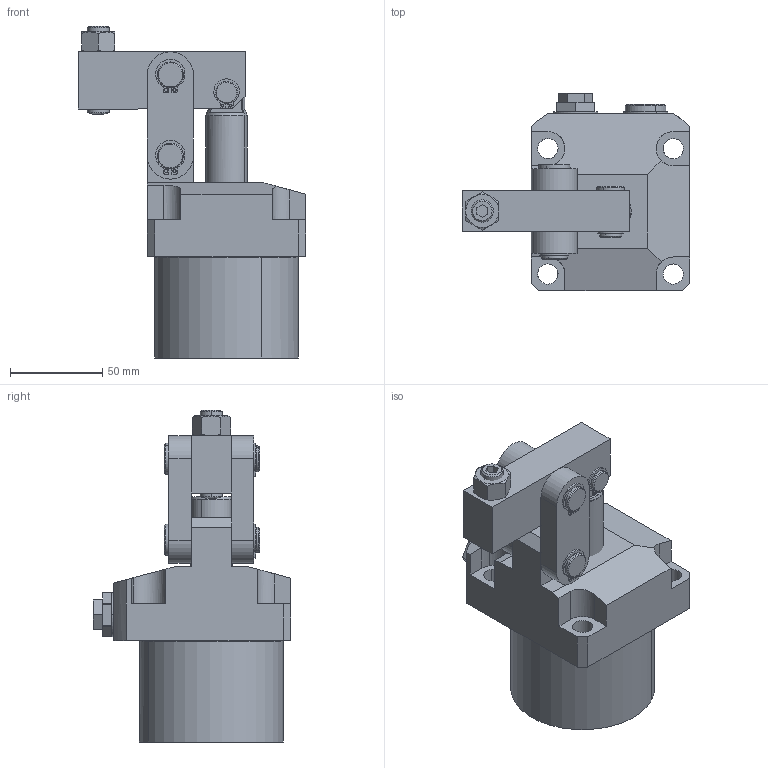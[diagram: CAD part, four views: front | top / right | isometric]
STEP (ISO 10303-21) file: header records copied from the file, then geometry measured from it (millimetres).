
FILE_DESCRIPTION(('CATIA V5 STEP Exchange'),'2;1');
FILE_NAME('\\Kjf-102\kjf_tc\Hydraulic_Clamp\Standard\HINGE_CLAMP\New_Hinge-Clamp\HGC-5636G\배포도면\CHGC-5678GV-RH-L.stp','2017-09-15T04:41:15+00:00',('none'),('none'),'CATIA Version 5 Release 19 SP 6 (IN-10)','CATIA V5 STEP AP214','none');
FILE_SCHEMA(('AUTOMOTIVE_DESIGN { 1 0 10303 214 1 1 1 1 }'));
Length unit declared in the file: millimetre
Products named in the file (1): CHGC-5678G-RH-L
Bounding box: 123.5 x 107 x 180 mm (x, y, z)
Volume: 581926.2 mm3; surface area: 108627.5 mm2
Topology: 15 solids, 16 shells, 384 faces, 937 edges, 606 vertices
Faces by surface type: plane 162, cylinder 150, cone 62, torus 6, sphere 4
Entity records: 11629 total; most frequent: CARTESIAN_POINT 2735, ORIENTED_EDGE 1866, DIRECTION 1550, EDGE_CURVE 933, AXIS2_PLACEMENT_3D 714, VERTEX_POINT 606, VECTOR 487, LINE 487
